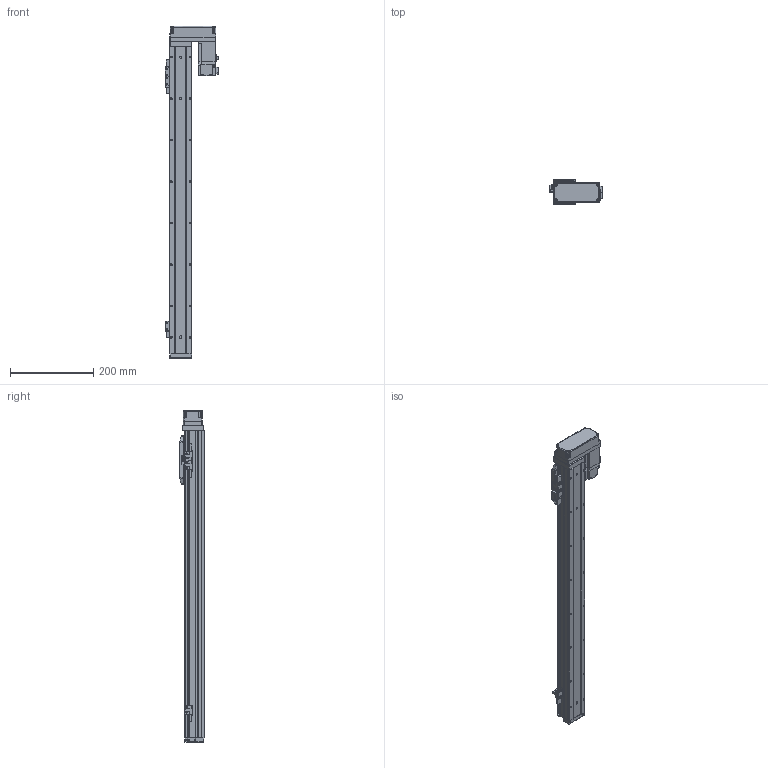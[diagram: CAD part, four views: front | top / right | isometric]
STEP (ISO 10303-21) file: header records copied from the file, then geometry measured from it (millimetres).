
FILE_DESCRIPTION (( 'STEP AP214' ), '1' );
FILE_NAME ('N_GRH5-600-BL-M10.step', '2025-03-14T09:45:44', ( '' ), ( '' ), 'SwSTEP 2.0', 'SolidWorks 2016', '' );
FILE_SCHEMA (( 'AUTOMOTIVE_DESIGN' ));
Length unit declared in the file: millimetre
Products named in the file (5): N_GRH5-BL-008^N_GRH5-600-BL-M10; N_GRH5-GY-011^N_GRH5-600-BL-M10; N_GRH5-600-BL-M10; N_GRH5-GY-004^N_GRH5-600-BL-M10; HF-KP13_100W_Motor^N_GRH5-600-BL-M10
Assembly tree (4 placements, depth 2):
  N_GRH5-600-BL-M10
    N_GRH5-GY-011^N_GRH5-600-BL-M10
    N_GRH5-GY-004^N_GRH5-600-BL-M10
    HF-KP13_100W_Motor^N_GRH5-600-BL-M10
    N_GRH5-BL-008^N_GRH5-600-BL-M10
Bounding box: 128.85 x 60 x 800 mm (x, y, z)
Volume: 1513968.2 mm3; surface area: 383694.8 mm2
Topology: 4 solids, 5 shells, 934 faces, 2400 edges, 1529 vertices
Faces by surface type: plane 557, cylinder 322, cone 30, bspline 15, sphere 10
Entity records: 35621 total; most frequent: CARTESIAN_POINT 5701, DIRECTION 4833, ORIENTED_EDGE 4752, EDGE_CURVE 2376, VECTOR 1639, LINE 1639, AXIS2_PLACEMENT_3D 1597, VERTEX_POINT 1527
